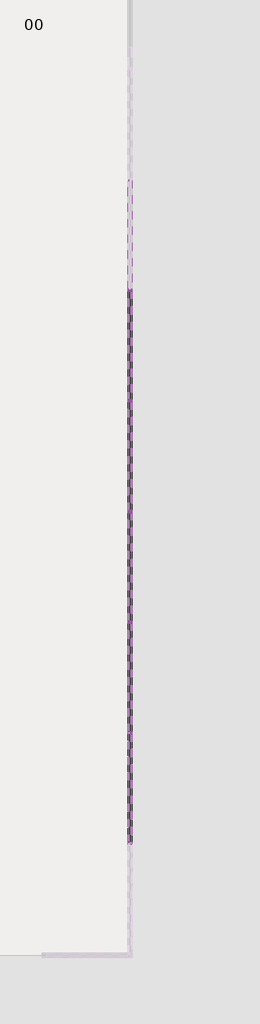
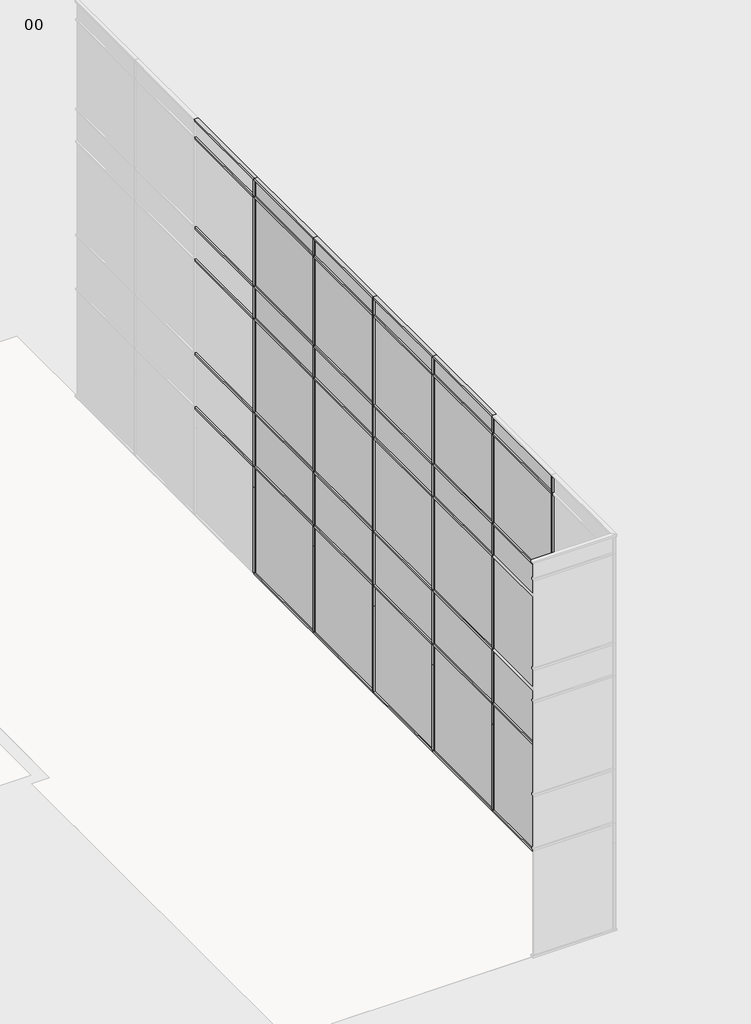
# One storey, part 5 of 12: 80 members, 30 plates.
"""IFC4 building model written with IfcOpenShell, lengths in millimetres."""

from ifc_helpers import new_model, si_unit, origin, place, context, project, spatial, transform, mapped, element, save
from components import rectangular_mullion_curtainwallmullion_rectangular_generic_8ae0e668, rectangular_mullion_curtainwallmullion_rectangular_generic_08fbcc14, rectangular_mullion_curtainwallmullion_rectangular_generic_5675a122, rectangular_mullion_curtainwallmullion_rectangular_generic_12ad56c0, rectangular_mullion_curtainwallmullion_rectangular_generic_bd817207, rectangular_mullion_curtainwallmullion_rectangular_generic_654ac675, rectangular_mullion_curtainwallmullion_rectangular_generic_c0600e94, rectangular_mullion_curtainwallmullion_rectangular_generic_c640f651, rectangular_mullion_curtainwallmullion_rectangular_generic_b2d53351, system_panel_curtainpanel_glazed_34fb785a, system_panel_curtainpanel_glazed_62d472f1, system_panel_curtainpanel_glazed_9c2ad216, system_panel_curtainpanel_solid_fc584997, system_panel_curtainpanel_solid_60141125, system_panel_curtainpanel_solid_5de49f81

model = new_model("IFC4")

# Units and contexts
model_context = context("Model", 3, world=origin())
ifc_project = project(units=[si_unit("LENGTHUNIT", "METRE", prefix="MILLI")], contexts=[model_context])

# Site, building, storey
site = spatial("IfcSite", under=ifc_project)
building = spatial("IfcBuilding", under=site)
storey = spatial("IfcBuildingStorey", under=building, Name="00", Elevation=0.0)

# Members
placement = place(None, origin())
rectangular_mullion_curtainwallmullion_rectangular_generic_shape = rectangular_mullion_curtainwallmullion_rectangular_generic_8ae0e668(model_context)
element("IfcMember", 1, ObjectType="Rectangular Mullion : CurtainWallMullion_Rectangular_Generic", at=placement, inside=storey, context=model_context, shape_type="MappedRepresentation", body=[
    mapped(rectangular_mullion_curtainwallmullion_rectangular_generic_shape, transform((454246.3206883, -392053.4026387, 10486.7), x_axis=(0.0, -1.0, 0.0), y_axis=(-1.0, 0.0, 0.0), z_axis=(0.0, 0.0, -1.0))),
])
element("IfcMember", 2, ObjectType="Rectangular Mullion : CurtainWallMullion_Rectangular_Generic", at=placement, inside=storey, context=model_context, shape_type="MappedRepresentation", body=[
    mapped(rectangular_mullion_curtainwallmullion_rectangular_generic_shape, transform((454246.3206883, -394768.0026386, 10486.7), x_axis=(0.0, -1.0, 0.0), y_axis=(-1.0, 0.0, 0.0), z_axis=(0.0, 0.0, -1.0))),
])
element("IfcMember", 3, ObjectType="Rectangular Mullion : CurtainWallMullion_Rectangular_Generic", at=placement, inside=storey, context=model_context, shape_type="MappedRepresentation", body=[
    mapped(rectangular_mullion_curtainwallmullion_rectangular_generic_shape, transform((454246.3206883, -397482.6026385, 10486.7), x_axis=(0.0, -1.0, 0.0), y_axis=(-1.0, 0.0, 0.0), z_axis=(0.0, 0.0, -1.0))),
])
element("IfcMember", 4, ObjectType="Rectangular Mullion : CurtainWallMullion_Rectangular_Generic", at=placement, inside=storey, context=model_context, shape_type="MappedRepresentation", body=[
    mapped(rectangular_mullion_curtainwallmullion_rectangular_generic_shape, transform((454246.3206883, -400197.2026385, 10486.7), x_axis=(0.0, -1.0, 0.0), y_axis=(-1.0, 0.0, 0.0), z_axis=(0.0, 0.0, -1.0))),
])
element("IfcMember", 5, ObjectType="Rectangular Mullion : CurtainWallMullion_Rectangular_Generic", at=placement, inside=storey, context=model_context, shape_type="MappedRepresentation", body=[
    mapped(rectangular_mullion_curtainwallmullion_rectangular_generic_shape, transform((454246.3206883, -402911.8026384, 10486.7), x_axis=(0.0, -1.0, 0.0), y_axis=(-1.0, 0.0, 0.0), z_axis=(0.0, 0.0, -1.0))),
])
element("IfcMember", 6, ObjectType="Rectangular Mullion : CurtainWallMullion_Rectangular_Generic", at=placement, inside=storey, context=model_context, shape_type="MappedRepresentation", body=[
    mapped(rectangular_mullion_curtainwallmullion_rectangular_generic_shape, transform((454246.3206883, -405626.4026384, 10486.7), x_axis=(0.0, -1.0, 0.0), y_axis=(-1.0, 0.0, 0.0), z_axis=(0.0, 0.0, -1.0))),
])
rectangular_mullion_curtainwallmullion_rectangular_generic_2_shape = rectangular_mullion_curtainwallmullion_rectangular_generic_08fbcc14(model_context)
element("IfcMember", 7, ObjectType="Rectangular Mullion : CurtainWallMullion_Rectangular_Generic", at=placement, inside=storey, context=model_context, shape_type="MappedRepresentation", body=[
    mapped(rectangular_mullion_curtainwallmullion_rectangular_generic_2_shape, transform((454246.3206883, -392053.4026387, 8000.0), x_axis=(0.0, -1.0, 0.0), y_axis=(-1.0, 0.0, 0.0), z_axis=(0.0, 0.0, -1.0))),
])
element("IfcMember", 8, ObjectType="Rectangular Mullion : CurtainWallMullion_Rectangular_Generic", at=placement, inside=storey, context=model_context, shape_type="MappedRepresentation", body=[
    mapped(rectangular_mullion_curtainwallmullion_rectangular_generic_2_shape, transform((454246.3206883, -394768.0026386, 8000.0), x_axis=(0.0, -1.0, 0.0), y_axis=(-1.0, 0.0, 0.0), z_axis=(0.0, 0.0, -1.0))),
])
element("IfcMember", 9, ObjectType="Rectangular Mullion : CurtainWallMullion_Rectangular_Generic", at=placement, inside=storey, context=model_context, shape_type="MappedRepresentation", body=[
    mapped(rectangular_mullion_curtainwallmullion_rectangular_generic_2_shape, transform((454246.3206883, -397482.6026385, 8000.0), x_axis=(0.0, -1.0, 0.0), y_axis=(-1.0, 0.0, 0.0), z_axis=(0.0, 0.0, -1.0))),
])
element("IfcMember", 10, ObjectType="Rectangular Mullion : CurtainWallMullion_Rectangular_Generic", at=placement, inside=storey, context=model_context, shape_type="MappedRepresentation", body=[
    mapped(rectangular_mullion_curtainwallmullion_rectangular_generic_2_shape, transform((454246.3206883, -400197.2026385, 8000.0), x_axis=(0.0, -1.0, 0.0), y_axis=(-1.0, 0.0, 0.0), z_axis=(0.0, 0.0, -1.0))),
])
element("IfcMember", 11, ObjectType="Rectangular Mullion : CurtainWallMullion_Rectangular_Generic", at=placement, inside=storey, context=model_context, shape_type="MappedRepresentation", body=[
    mapped(rectangular_mullion_curtainwallmullion_rectangular_generic_2_shape, transform((454246.3206883, -402911.8026384, 8000.0), x_axis=(0.0, -1.0, 0.0), y_axis=(-1.0, 0.0, 0.0), z_axis=(0.0, 0.0, -1.0))),
])
element("IfcMember", 12, ObjectType="Rectangular Mullion : CurtainWallMullion_Rectangular_Generic", at=placement, inside=storey, context=model_context, shape_type="MappedRepresentation", body=[
    mapped(rectangular_mullion_curtainwallmullion_rectangular_generic_2_shape, transform((454246.3206883, -405626.4026384, 8000.0), x_axis=(0.0, -1.0, 0.0), y_axis=(-1.0, 0.0, 0.0), z_axis=(0.0, 0.0, -1.0))),
])
rectangular_mullion_curtainwallmullion_rectangular_generic_3_shape = rectangular_mullion_curtainwallmullion_rectangular_generic_5675a122(model_context)
element("IfcMember", 13, ObjectType="Rectangular Mullion : CurtainWallMullion_Rectangular_Generic", at=placement, inside=storey, context=model_context, shape_type="MappedRepresentation", body=[
    mapped(rectangular_mullion_curtainwallmullion_rectangular_generic_3_shape, transform((454246.3206883, -392053.4026387, 50.0), x_axis=(0.0, -1.0, 0.0), y_axis=(-1.0, 0.0, 0.0), z_axis=(0.0, 0.0, -1.0))),
])
element("IfcMember", 14, ObjectType="Rectangular Mullion : CurtainWallMullion_Rectangular_Generic", at=placement, inside=storey, context=model_context, shape_type="MappedRepresentation", body=[
    mapped(rectangular_mullion_curtainwallmullion_rectangular_generic_3_shape, transform((454246.3206883, -394768.0026386, 50.0), x_axis=(0.0, -1.0, 0.0), y_axis=(-1.0, 0.0, 0.0), z_axis=(0.0, 0.0, -1.0))),
])
element("IfcMember", 15, ObjectType="Rectangular Mullion : CurtainWallMullion_Rectangular_Generic", at=placement, inside=storey, context=model_context, shape_type="MappedRepresentation", body=[
    mapped(rectangular_mullion_curtainwallmullion_rectangular_generic_3_shape, transform((454246.3206883, -397482.6026385, 50.0), x_axis=(0.0, -1.0, 0.0), y_axis=(-1.0, 0.0, 0.0), z_axis=(0.0, 0.0, -1.0))),
])
element("IfcMember", 16, ObjectType="Rectangular Mullion : CurtainWallMullion_Rectangular_Generic", at=placement, inside=storey, context=model_context, shape_type="MappedRepresentation", body=[
    mapped(rectangular_mullion_curtainwallmullion_rectangular_generic_3_shape, transform((454246.3206883, -400197.2026385, 50.0), x_axis=(0.0, -1.0, 0.0), y_axis=(-1.0, 0.0, 0.0), z_axis=(0.0, 0.0, -1.0))),
])
element("IfcMember", 17, ObjectType="Rectangular Mullion : CurtainWallMullion_Rectangular_Generic", at=placement, inside=storey, context=model_context, shape_type="MappedRepresentation", body=[
    mapped(rectangular_mullion_curtainwallmullion_rectangular_generic_3_shape, transform((454246.3206883, -402911.8026384, 50.0), x_axis=(0.0, -1.0, 0.0), y_axis=(-1.0, 0.0, 0.0), z_axis=(0.0, 0.0, -1.0))),
])
element("IfcMember", 18, ObjectType="Rectangular Mullion : CurtainWallMullion_Rectangular_Generic", at=placement, inside=storey, context=model_context, shape_type="MappedRepresentation", body=[
    mapped(rectangular_mullion_curtainwallmullion_rectangular_generic_3_shape, transform((454246.3206883, -405626.4026384, 50.0), x_axis=(0.0, -1.0, 0.0), y_axis=(-1.0, 0.0, 0.0), z_axis=(0.0, 0.0, -1.0))),
])
rectangular_mullion_curtainwallmullion_rectangular_generic_4_shape = rectangular_mullion_curtainwallmullion_rectangular_generic_12ad56c0(model_context)
element("IfcMember", 19, ObjectType="Rectangular Mullion : CurtainWallMullion_Rectangular_Generic", at=placement, inside=storey, context=model_context, shape_type="MappedRepresentation", body=[
    mapped(rectangular_mullion_curtainwallmullion_rectangular_generic_4_shape, transform((454246.3206883, -392053.4026387, 11000.0), x_axis=(0.0, 0.0, 1.0), y_axis=(-1.0, 0.0, 0.0), z_axis=(0.0, -1.0, 0.0))),
])
element("IfcMember", 20, ObjectType="Rectangular Mullion : CurtainWallMullion_Rectangular_Generic", at=placement, inside=storey, context=model_context, shape_type="MappedRepresentation", body=[
    mapped(rectangular_mullion_curtainwallmullion_rectangular_generic_4_shape, transform((454246.3206883, -394768.0026386, 11000.0), x_axis=(0.0, 0.0, 1.0), y_axis=(-1.0, 0.0, 0.0), z_axis=(0.0, -1.0, 0.0))),
])
element("IfcMember", 21, ObjectType="Rectangular Mullion : CurtainWallMullion_Rectangular_Generic", at=placement, inside=storey, context=model_context, shape_type="MappedRepresentation", body=[
    mapped(rectangular_mullion_curtainwallmullion_rectangular_generic_4_shape, transform((454246.3206883, -397482.6026385, 11000.0), x_axis=(0.0, 0.0, 1.0), y_axis=(-1.0, 0.0, 0.0), z_axis=(0.0, -1.0, 0.0))),
])
element("IfcMember", 22, ObjectType="Rectangular Mullion : CurtainWallMullion_Rectangular_Generic", at=placement, inside=storey, context=model_context, shape_type="MappedRepresentation", body=[
    mapped(rectangular_mullion_curtainwallmullion_rectangular_generic_4_shape, transform((454246.3206883, -400197.2026385, 11000.0), x_axis=(0.0, 0.0, 1.0), y_axis=(-1.0, 0.0, 0.0), z_axis=(0.0, -1.0, 0.0))),
])
element("IfcMember", 23, ObjectType="Rectangular Mullion : CurtainWallMullion_Rectangular_Generic", at=placement, inside=storey, context=model_context, shape_type="MappedRepresentation", body=[
    mapped(rectangular_mullion_curtainwallmullion_rectangular_generic_4_shape, transform((454246.3206883, -402911.8026384, 11000.0), x_axis=(0.0, 0.0, 1.0), y_axis=(-1.0, 0.0, 0.0), z_axis=(0.0, -1.0, 0.0))),
])
element("IfcMember", 24, ObjectType="Rectangular Mullion : CurtainWallMullion_Rectangular_Generic", at=placement, inside=storey, context=model_context, shape_type="MappedRepresentation", body=[
    mapped(rectangular_mullion_curtainwallmullion_rectangular_generic_4_shape, transform((454246.3206883, -392053.4026387, 0.0), x_axis=(0.0, 0.0, -1.0), y_axis=(-1.0, 0.0, 0.0), z_axis=(0.0, 1.0, 0.0))),
])
element("IfcMember", 25, ObjectType="Rectangular Mullion : CurtainWallMullion_Rectangular_Generic", at=placement, inside=storey, context=model_context, shape_type="MappedRepresentation", body=[
    mapped(rectangular_mullion_curtainwallmullion_rectangular_generic_4_shape, transform((454246.3206883, -394768.0026386, 0.0), x_axis=(0.0, 0.0, -1.0), y_axis=(-1.0, 0.0, 0.0), z_axis=(0.0, 1.0, 0.0))),
])
element("IfcMember", 26, ObjectType="Rectangular Mullion : CurtainWallMullion_Rectangular_Generic", at=placement, inside=storey, context=model_context, shape_type="MappedRepresentation", body=[
    mapped(rectangular_mullion_curtainwallmullion_rectangular_generic_4_shape, transform((454246.3206883, -397482.6026385, 0.0), x_axis=(0.0, 0.0, -1.0), y_axis=(-1.0, 0.0, 0.0), z_axis=(0.0, 1.0, 0.0))),
])
element("IfcMember", 27, ObjectType="Rectangular Mullion : CurtainWallMullion_Rectangular_Generic", at=placement, inside=storey, context=model_context, shape_type="MappedRepresentation", body=[
    mapped(rectangular_mullion_curtainwallmullion_rectangular_generic_4_shape, transform((454246.3206883, -400197.2026385, 0.0), x_axis=(0.0, 0.0, -1.0), y_axis=(-1.0, 0.0, 0.0), z_axis=(0.0, 1.0, 0.0))),
])
element("IfcMember", 28, ObjectType="Rectangular Mullion : CurtainWallMullion_Rectangular_Generic", at=placement, inside=storey, context=model_context, shape_type="MappedRepresentation", body=[
    mapped(rectangular_mullion_curtainwallmullion_rectangular_generic_4_shape, transform((454246.3206883, -402911.8026384, 0.0), x_axis=(0.0, 0.0, -1.0), y_axis=(-1.0, 0.0, 0.0), z_axis=(0.0, 1.0, 0.0))),
])
rectangular_mullion_curtainwallmullion_rectangular_generic_5_shape = rectangular_mullion_curtainwallmullion_rectangular_generic_bd817207(model_context)
element("IfcMember", 29, ObjectType="Rectangular Mullion : CurtainWallMullion_Rectangular_Generic", at=placement, inside=storey, context=model_context, shape_type="MappedRepresentation", body=[
    mapped(rectangular_mullion_curtainwallmullion_rectangular_generic_5_shape, transform((454246.3206883, -392028.4026387, 4500.0), x_axis=(0.0, 0.0, 1.0), y_axis=(-1.0, 0.0, 0.0), z_axis=(0.0, -1.0, 0.0))),
])
element("IfcMember", 30, ObjectType="Rectangular Mullion : CurtainWallMullion_Rectangular_Generic", at=placement, inside=storey, context=model_context, shape_type="MappedRepresentation", body=[
    mapped(rectangular_mullion_curtainwallmullion_rectangular_generic_5_shape, transform((454246.3206883, -394743.0026386, 4500.0), x_axis=(0.0, 0.0, 1.0), y_axis=(-1.0, 0.0, 0.0), z_axis=(0.0, -1.0, 0.0))),
])
element("IfcMember", 31, ObjectType="Rectangular Mullion : CurtainWallMullion_Rectangular_Generic", at=placement, inside=storey, context=model_context, shape_type="MappedRepresentation", body=[
    mapped(rectangular_mullion_curtainwallmullion_rectangular_generic_5_shape, transform((454246.3206883, -392028.4026387, 7100.0), x_axis=(0.0, 0.0, 1.0), y_axis=(-1.0, 0.0, 0.0), z_axis=(0.0, -1.0, 0.0))),
])
element("IfcMember", 32, ObjectType="Rectangular Mullion : CurtainWallMullion_Rectangular_Generic", at=placement, inside=storey, context=model_context, shape_type="MappedRepresentation", body=[
    mapped(rectangular_mullion_curtainwallmullion_rectangular_generic_5_shape, transform((454246.3206883, -394743.0026386, 7100.0), x_axis=(0.0, 0.0, 1.0), y_axis=(-1.0, 0.0, 0.0), z_axis=(0.0, -1.0, 0.0))),
])
element("IfcMember", 33, ObjectType="Rectangular Mullion : CurtainWallMullion_Rectangular_Generic", at=placement, inside=storey, context=model_context, shape_type="MappedRepresentation", body=[
    mapped(rectangular_mullion_curtainwallmullion_rectangular_generic_5_shape, transform((454246.3206883, -392028.4026387, 10486.7), x_axis=(0.0, 0.0, 1.0), y_axis=(-1.0, 0.0, 0.0), z_axis=(0.0, -1.0, 0.0))),
])
element("IfcMember", 34, ObjectType="Rectangular Mullion : CurtainWallMullion_Rectangular_Generic", at=placement, inside=storey, context=model_context, shape_type="MappedRepresentation", body=[
    mapped(rectangular_mullion_curtainwallmullion_rectangular_generic_5_shape, transform((454246.3206883, -394743.0026386, 10486.7), x_axis=(0.0, 0.0, 1.0), y_axis=(-1.0, 0.0, 0.0), z_axis=(0.0, -1.0, 0.0))),
])
element("IfcMember", 35, ObjectType="Rectangular Mullion : CurtainWallMullion_Rectangular_Generic", at=placement, inside=storey, context=model_context, shape_type="MappedRepresentation", body=[
    mapped(rectangular_mullion_curtainwallmullion_rectangular_generic_5_shape, transform((454246.3206883, -397457.6026385, 4500.0), x_axis=(0.0, 0.0, 1.0), y_axis=(-1.0, 0.0, 0.0), z_axis=(0.0, -1.0, 0.0))),
])
element("IfcMember", 36, ObjectType="Rectangular Mullion : CurtainWallMullion_Rectangular_Generic", at=placement, inside=storey, context=model_context, shape_type="MappedRepresentation", body=[
    mapped(rectangular_mullion_curtainwallmullion_rectangular_generic_5_shape, transform((454246.3206883, -400172.2026385, 4500.0), x_axis=(0.0, 0.0, 1.0), y_axis=(-1.0, 0.0, 0.0), z_axis=(0.0, -1.0, 0.0))),
])
element("IfcMember", 37, ObjectType="Rectangular Mullion : CurtainWallMullion_Rectangular_Generic", at=placement, inside=storey, context=model_context, shape_type="MappedRepresentation", body=[
    mapped(rectangular_mullion_curtainwallmullion_rectangular_generic_5_shape, transform((454246.3206883, -402886.8026384, 4500.0), x_axis=(0.0, 0.0, 1.0), y_axis=(-1.0, 0.0, 0.0), z_axis=(0.0, -1.0, 0.0))),
])
element("IfcMember", 38, ObjectType="Rectangular Mullion : CurtainWallMullion_Rectangular_Generic", at=placement, inside=storey, context=model_context, shape_type="MappedRepresentation", body=[
    mapped(rectangular_mullion_curtainwallmullion_rectangular_generic_5_shape, transform((454246.3206883, -397457.6026385, 7100.0), x_axis=(0.0, 0.0, 1.0), y_axis=(-1.0, 0.0, 0.0), z_axis=(0.0, -1.0, 0.0))),
])
element("IfcMember", 39, ObjectType="Rectangular Mullion : CurtainWallMullion_Rectangular_Generic", at=placement, inside=storey, context=model_context, shape_type="MappedRepresentation", body=[
    mapped(rectangular_mullion_curtainwallmullion_rectangular_generic_5_shape, transform((454246.3206883, -400172.2026385, 7100.0), x_axis=(0.0, 0.0, 1.0), y_axis=(-1.0, 0.0, 0.0), z_axis=(0.0, -1.0, 0.0))),
])
element("IfcMember", 40, ObjectType="Rectangular Mullion : CurtainWallMullion_Rectangular_Generic", at=placement, inside=storey, context=model_context, shape_type="MappedRepresentation", body=[
    mapped(rectangular_mullion_curtainwallmullion_rectangular_generic_5_shape, transform((454246.3206883, -402886.8026384, 7100.0), x_axis=(0.0, 0.0, 1.0), y_axis=(-1.0, 0.0, 0.0), z_axis=(0.0, -1.0, 0.0))),
])
element("IfcMember", 41, ObjectType="Rectangular Mullion : CurtainWallMullion_Rectangular_Generic", at=placement, inside=storey, context=model_context, shape_type="MappedRepresentation", body=[
    mapped(rectangular_mullion_curtainwallmullion_rectangular_generic_5_shape, transform((454246.3206883, -397457.6026385, 10486.7), x_axis=(0.0, 0.0, 1.0), y_axis=(-1.0, 0.0, 0.0), z_axis=(0.0, -1.0, 0.0))),
])
element("IfcMember", 42, ObjectType="Rectangular Mullion : CurtainWallMullion_Rectangular_Generic", at=placement, inside=storey, context=model_context, shape_type="MappedRepresentation", body=[
    mapped(rectangular_mullion_curtainwallmullion_rectangular_generic_5_shape, transform((454246.3206883, -400172.2026385, 10486.7), x_axis=(0.0, 0.0, 1.0), y_axis=(-1.0, 0.0, 0.0), z_axis=(0.0, -1.0, 0.0))),
])
element("IfcMember", 43, ObjectType="Rectangular Mullion : CurtainWallMullion_Rectangular_Generic", at=placement, inside=storey, context=model_context, shape_type="MappedRepresentation", body=[
    mapped(rectangular_mullion_curtainwallmullion_rectangular_generic_5_shape, transform((454246.3206883, -402886.8026384, 10486.7), x_axis=(0.0, 0.0, 1.0), y_axis=(-1.0, 0.0, 0.0), z_axis=(0.0, -1.0, 0.0))),
])
element("IfcMember", 44, ObjectType="Rectangular Mullion : CurtainWallMullion_Rectangular_Generic", at=placement, inside=storey, context=model_context, shape_type="MappedRepresentation", body=[
    mapped(rectangular_mullion_curtainwallmullion_rectangular_generic_5_shape, transform((454246.3206883, -405601.4026384, 10486.7), x_axis=(0.0, 0.0, 1.0), y_axis=(-1.0, 0.0, 0.0), z_axis=(0.0, -1.0, 0.0))),
])
element("IfcMember", 45, ObjectType="Rectangular Mullion : CurtainWallMullion_Rectangular_Generic", at=placement, inside=storey, context=model_context, shape_type="MappedRepresentation", body=[
    mapped(rectangular_mullion_curtainwallmullion_rectangular_generic_5_shape, transform((454246.3206883, -392028.4026387, 8000.0), x_axis=(0.0, 0.0, 1.0), y_axis=(-1.0, 0.0, 0.0), z_axis=(0.0, -1.0, 0.0))),
])
element("IfcMember", 46, ObjectType="Rectangular Mullion : CurtainWallMullion_Rectangular_Generic", at=placement, inside=storey, context=model_context, shape_type="MappedRepresentation", body=[
    mapped(rectangular_mullion_curtainwallmullion_rectangular_generic_5_shape, transform((454246.3206883, -394743.0026386, 8000.0), x_axis=(0.0, 0.0, 1.0), y_axis=(-1.0, 0.0, 0.0), z_axis=(0.0, -1.0, 0.0))),
])
element("IfcMember", 47, ObjectType="Rectangular Mullion : CurtainWallMullion_Rectangular_Generic", at=placement, inside=storey, context=model_context, shape_type="MappedRepresentation", body=[
    mapped(rectangular_mullion_curtainwallmullion_rectangular_generic_5_shape, transform((454246.3206883, -397457.6026385, 8000.0), x_axis=(0.0, 0.0, 1.0), y_axis=(-1.0, 0.0, 0.0), z_axis=(0.0, -1.0, 0.0))),
])
element("IfcMember", 48, ObjectType="Rectangular Mullion : CurtainWallMullion_Rectangular_Generic", at=placement, inside=storey, context=model_context, shape_type="MappedRepresentation", body=[
    mapped(rectangular_mullion_curtainwallmullion_rectangular_generic_5_shape, transform((454246.3206883, -400172.2026385, 8000.0), x_axis=(0.0, 0.0, 1.0), y_axis=(-1.0, 0.0, 0.0), z_axis=(0.0, -1.0, 0.0))),
])
element("IfcMember", 49, ObjectType="Rectangular Mullion : CurtainWallMullion_Rectangular_Generic", at=placement, inside=storey, context=model_context, shape_type="MappedRepresentation", body=[
    mapped(rectangular_mullion_curtainwallmullion_rectangular_generic_5_shape, transform((454246.3206883, -402886.8026384, 8000.0), x_axis=(0.0, 0.0, 1.0), y_axis=(-1.0, 0.0, 0.0), z_axis=(0.0, -1.0, 0.0))),
])
element("IfcMember", 50, ObjectType="Rectangular Mullion : CurtainWallMullion_Rectangular_Generic", at=placement, inside=storey, context=model_context, shape_type="MappedRepresentation", body=[
    mapped(rectangular_mullion_curtainwallmullion_rectangular_generic_5_shape, transform((454246.3206883, -405601.4026384, 8000.0), x_axis=(0.0, 0.0, 1.0), y_axis=(-1.0, 0.0, 0.0), z_axis=(0.0, -1.0, 0.0))),
])
element("IfcMember", 51, ObjectType="Rectangular Mullion : CurtainWallMullion_Rectangular_Generic", at=placement, inside=storey, context=model_context, shape_type="MappedRepresentation", body=[
    mapped(rectangular_mullion_curtainwallmullion_rectangular_generic_5_shape, transform((454246.3206883, -392028.4026387, 3000.0), x_axis=(0.0, 0.0, 1.0), y_axis=(-1.0, 0.0, 0.0), z_axis=(0.0, -1.0, 0.0))),
])
element("IfcMember", 52, ObjectType="Rectangular Mullion : CurtainWallMullion_Rectangular_Generic", at=placement, inside=storey, context=model_context, shape_type="MappedRepresentation", body=[
    mapped(rectangular_mullion_curtainwallmullion_rectangular_generic_5_shape, transform((454246.3206883, -394743.0026386, 3000.0), x_axis=(0.0, 0.0, 1.0), y_axis=(-1.0, 0.0, 0.0), z_axis=(0.0, -1.0, 0.0))),
])
element("IfcMember", 53, ObjectType="Rectangular Mullion : CurtainWallMullion_Rectangular_Generic", at=placement, inside=storey, context=model_context, shape_type="MappedRepresentation", body=[
    mapped(rectangular_mullion_curtainwallmullion_rectangular_generic_5_shape, transform((454246.3206883, -397457.6026385, 3000.0), x_axis=(0.0, 0.0, 1.0), y_axis=(-1.0, 0.0, 0.0), z_axis=(0.0, -1.0, 0.0))),
])
element("IfcMember", 54, ObjectType="Rectangular Mullion : CurtainWallMullion_Rectangular_Generic", at=placement, inside=storey, context=model_context, shape_type="MappedRepresentation", body=[
    mapped(rectangular_mullion_curtainwallmullion_rectangular_generic_5_shape, transform((454246.3206883, -400172.2026385, 3000.0), x_axis=(0.0, 0.0, 1.0), y_axis=(-1.0, 0.0, 0.0), z_axis=(0.0, -1.0, 0.0))),
])
element("IfcMember", 55, ObjectType="Rectangular Mullion : CurtainWallMullion_Rectangular_Generic", at=placement, inside=storey, context=model_context, shape_type="MappedRepresentation", body=[
    mapped(rectangular_mullion_curtainwallmullion_rectangular_generic_5_shape, transform((454246.3206883, -402886.8026384, 3000.0), x_axis=(0.0, 0.0, 1.0), y_axis=(-1.0, 0.0, 0.0), z_axis=(0.0, -1.0, 0.0))),
])
element("IfcMember", 56, ObjectType="Rectangular Mullion : CurtainWallMullion_Rectangular_Generic", at=placement, inside=storey, context=model_context, shape_type="MappedRepresentation", body=[
    mapped(rectangular_mullion_curtainwallmullion_rectangular_generic_5_shape, transform((454246.3206883, -405601.4026384, 3000.0), x_axis=(0.0, 0.0, 1.0), y_axis=(-1.0, 0.0, 0.0), z_axis=(0.0, -1.0, 0.0))),
])
rectangular_mullion_curtainwallmullion_rectangular_generic_6_shape = rectangular_mullion_curtainwallmullion_rectangular_generic_654ac675(model_context)
element("IfcMember", 57, ObjectType="Rectangular Mullion : CurtainWallMullion_Rectangular_Generic", at=placement, inside=storey, context=model_context, shape_type="MappedRepresentation", body=[
    mapped(rectangular_mullion_curtainwallmullion_rectangular_generic_6_shape, transform((454246.3206883, -392053.4026387, 4500.0), x_axis=(0.0, -1.0, 0.0), y_axis=(-1.0, 0.0, 0.0), z_axis=(0.0, 0.0, -1.0))),
])
element("IfcMember", 58, ObjectType="Rectangular Mullion : CurtainWallMullion_Rectangular_Generic", at=placement, inside=storey, context=model_context, shape_type="MappedRepresentation", body=[
    mapped(rectangular_mullion_curtainwallmullion_rectangular_generic_6_shape, transform((454246.3206883, -394768.0026386, 4500.0), x_axis=(0.0, -1.0, 0.0), y_axis=(-1.0, 0.0, 0.0), z_axis=(0.0, 0.0, -1.0))),
])
element("IfcMember", 59, ObjectType="Rectangular Mullion : CurtainWallMullion_Rectangular_Generic", at=placement, inside=storey, context=model_context, shape_type="MappedRepresentation", body=[
    mapped(rectangular_mullion_curtainwallmullion_rectangular_generic_6_shape, transform((454246.3206883, -397482.6026385, 4500.0), x_axis=(0.0, -1.0, 0.0), y_axis=(-1.0, 0.0, 0.0), z_axis=(0.0, 0.0, -1.0))),
])
element("IfcMember", 60, ObjectType="Rectangular Mullion : CurtainWallMullion_Rectangular_Generic", at=placement, inside=storey, context=model_context, shape_type="MappedRepresentation", body=[
    mapped(rectangular_mullion_curtainwallmullion_rectangular_generic_6_shape, transform((454246.3206883, -400197.2026385, 4500.0), x_axis=(0.0, -1.0, 0.0), y_axis=(-1.0, 0.0, 0.0), z_axis=(0.0, 0.0, -1.0))),
])
element("IfcMember", 61, ObjectType="Rectangular Mullion : CurtainWallMullion_Rectangular_Generic", at=placement, inside=storey, context=model_context, shape_type="MappedRepresentation", body=[
    mapped(rectangular_mullion_curtainwallmullion_rectangular_generic_6_shape, transform((454246.3206883, -402911.8026384, 4500.0), x_axis=(0.0, -1.0, 0.0), y_axis=(-1.0, 0.0, 0.0), z_axis=(0.0, 0.0, -1.0))),
])
element("IfcMember", 62, ObjectType="Rectangular Mullion : CurtainWallMullion_Rectangular_Generic", at=placement, inside=storey, context=model_context, shape_type="MappedRepresentation", body=[
    mapped(rectangular_mullion_curtainwallmullion_rectangular_generic_6_shape, transform((454246.3206883, -405626.4026384, 4500.0), x_axis=(0.0, -1.0, 0.0), y_axis=(-1.0, 0.0, 0.0), z_axis=(0.0, 0.0, -1.0))),
])
rectangular_mullion_curtainwallmullion_rectangular_generic_7_shape = rectangular_mullion_curtainwallmullion_rectangular_generic_c0600e94(model_context)
element("IfcMember", 63, ObjectType="Rectangular Mullion : CurtainWallMullion_Rectangular_Generic", at=placement, inside=storey, context=model_context, shape_type="MappedRepresentation", body=[
    mapped(rectangular_mullion_curtainwallmullion_rectangular_generic_7_shape, transform((454246.3206883, -392053.4026387, 3000.0), x_axis=(0.0, -1.0, 0.0), y_axis=(-1.0, 0.0, 0.0), z_axis=(0.0, 0.0, -1.0))),
])
element("IfcMember", 64, ObjectType="Rectangular Mullion : CurtainWallMullion_Rectangular_Generic", at=placement, inside=storey, context=model_context, shape_type="MappedRepresentation", body=[
    mapped(rectangular_mullion_curtainwallmullion_rectangular_generic_7_shape, transform((454246.3206883, -394768.0026386, 3000.0), x_axis=(0.0, -1.0, 0.0), y_axis=(-1.0, 0.0, 0.0), z_axis=(0.0, 0.0, -1.0))),
])
element("IfcMember", 65, ObjectType="Rectangular Mullion : CurtainWallMullion_Rectangular_Generic", at=placement, inside=storey, context=model_context, shape_type="MappedRepresentation", body=[
    mapped(rectangular_mullion_curtainwallmullion_rectangular_generic_7_shape, transform((454246.3206883, -397482.6026385, 3000.0), x_axis=(0.0, -1.0, 0.0), y_axis=(-1.0, 0.0, 0.0), z_axis=(0.0, 0.0, -1.0))),
])
element("IfcMember", 66, ObjectType="Rectangular Mullion : CurtainWallMullion_Rectangular_Generic", at=placement, inside=storey, context=model_context, shape_type="MappedRepresentation", body=[
    mapped(rectangular_mullion_curtainwallmullion_rectangular_generic_7_shape, transform((454246.3206883, -400197.2026385, 3000.0), x_axis=(0.0, -1.0, 0.0), y_axis=(-1.0, 0.0, 0.0), z_axis=(0.0, 0.0, -1.0))),
])
element("IfcMember", 67, ObjectType="Rectangular Mullion : CurtainWallMullion_Rectangular_Generic", at=placement, inside=storey, context=model_context, shape_type="MappedRepresentation", body=[
    mapped(rectangular_mullion_curtainwallmullion_rectangular_generic_7_shape, transform((454246.3206883, -402911.8026384, 3000.0), x_axis=(0.0, -1.0, 0.0), y_axis=(-1.0, 0.0, 0.0), z_axis=(0.0, 0.0, -1.0))),
])
element("IfcMember", 68, ObjectType="Rectangular Mullion : CurtainWallMullion_Rectangular_Generic", at=placement, inside=storey, context=model_context, shape_type="MappedRepresentation", body=[
    mapped(rectangular_mullion_curtainwallmullion_rectangular_generic_7_shape, transform((454246.3206883, -405626.4026384, 3000.0), x_axis=(0.0, -1.0, 0.0), y_axis=(-1.0, 0.0, 0.0), z_axis=(0.0, 0.0, -1.0))),
])
rectangular_mullion_curtainwallmullion_rectangular_generic_8_shape = rectangular_mullion_curtainwallmullion_rectangular_generic_c640f651(model_context)
element("IfcMember", 69, ObjectType="Rectangular Mullion : CurtainWallMullion_Rectangular_Generic", at=placement, inside=storey, context=model_context, shape_type="MappedRepresentation", body=[
    mapped(rectangular_mullion_curtainwallmullion_rectangular_generic_8_shape, transform((454246.3206883, -392053.4026387, 7100.0), x_axis=(0.0, -1.0, 0.0), y_axis=(-1.0, 0.0, 0.0), z_axis=(0.0, 0.0, -1.0))),
])
element("IfcMember", 70, ObjectType="Rectangular Mullion : CurtainWallMullion_Rectangular_Generic", at=placement, inside=storey, context=model_context, shape_type="MappedRepresentation", body=[
    mapped(rectangular_mullion_curtainwallmullion_rectangular_generic_8_shape, transform((454246.3206883, -394768.0026386, 7100.0), x_axis=(0.0, -1.0, 0.0), y_axis=(-1.0, 0.0, 0.0), z_axis=(0.0, 0.0, -1.0))),
])
element("IfcMember", 71, ObjectType="Rectangular Mullion : CurtainWallMullion_Rectangular_Generic", at=placement, inside=storey, context=model_context, shape_type="MappedRepresentation", body=[
    mapped(rectangular_mullion_curtainwallmullion_rectangular_generic_8_shape, transform((454246.3206883, -397482.6026385, 7100.0), x_axis=(0.0, -1.0, 0.0), y_axis=(-1.0, 0.0, 0.0), z_axis=(0.0, 0.0, -1.0))),
])
element("IfcMember", 72, ObjectType="Rectangular Mullion : CurtainWallMullion_Rectangular_Generic", at=placement, inside=storey, context=model_context, shape_type="MappedRepresentation", body=[
    mapped(rectangular_mullion_curtainwallmullion_rectangular_generic_8_shape, transform((454246.3206883, -400197.2026385, 7100.0), x_axis=(0.0, -1.0, 0.0), y_axis=(-1.0, 0.0, 0.0), z_axis=(0.0, 0.0, -1.0))),
])
element("IfcMember", 73, ObjectType="Rectangular Mullion : CurtainWallMullion_Rectangular_Generic", at=placement, inside=storey, context=model_context, shape_type="MappedRepresentation", body=[
    mapped(rectangular_mullion_curtainwallmullion_rectangular_generic_8_shape, transform((454246.3206883, -402911.8026384, 7100.0), x_axis=(0.0, -1.0, 0.0), y_axis=(-1.0, 0.0, 0.0), z_axis=(0.0, 0.0, -1.0))),
])
element("IfcMember", 74, ObjectType="Rectangular Mullion : CurtainWallMullion_Rectangular_Generic", at=placement, inside=storey, context=model_context, shape_type="MappedRepresentation", body=[
    mapped(rectangular_mullion_curtainwallmullion_rectangular_generic_8_shape, transform((454246.3206883, -405626.4026384, 7100.0), x_axis=(0.0, -1.0, 0.0), y_axis=(-1.0, 0.0, 0.0), z_axis=(0.0, 0.0, -1.0))),
])
rectangular_mullion_curtainwallmullion_rectangular_generic_9_shape = rectangular_mullion_curtainwallmullion_rectangular_generic_b2d53351(model_context)
element("IfcMember", 75, ObjectType="Rectangular Mullion : CurtainWallMullion_Rectangular_Generic", at=placement, inside=storey, context=model_context, shape_type="MappedRepresentation", body=[
    mapped(rectangular_mullion_curtainwallmullion_rectangular_generic_9_shape, transform((454246.3206883, -392053.4026387, 2425.0), x_axis=(0.0, -1.0, 0.0), y_axis=(-1.0, 0.0, 0.0), z_axis=(0.0, 0.0, -1.0))),
])
element("IfcMember", 76, ObjectType="Rectangular Mullion : CurtainWallMullion_Rectangular_Generic", at=placement, inside=storey, context=model_context, shape_type="MappedRepresentation", body=[
    mapped(rectangular_mullion_curtainwallmullion_rectangular_generic_9_shape, transform((454246.3206883, -394768.0026386, 2425.0), x_axis=(0.0, -1.0, 0.0), y_axis=(-1.0, 0.0, 0.0), z_axis=(0.0, 0.0, -1.0))),
])
element("IfcMember", 77, ObjectType="Rectangular Mullion : CurtainWallMullion_Rectangular_Generic", at=placement, inside=storey, context=model_context, shape_type="MappedRepresentation", body=[
    mapped(rectangular_mullion_curtainwallmullion_rectangular_generic_9_shape, transform((454246.3206883, -397482.6026385, 2425.0), x_axis=(0.0, -1.0, 0.0), y_axis=(-1.0, 0.0, 0.0), z_axis=(0.0, 0.0, -1.0))),
])
element("IfcMember", 78, ObjectType="Rectangular Mullion : CurtainWallMullion_Rectangular_Generic", at=placement, inside=storey, context=model_context, shape_type="MappedRepresentation", body=[
    mapped(rectangular_mullion_curtainwallmullion_rectangular_generic_9_shape, transform((454246.3206883, -400197.2026385, 2425.0), x_axis=(0.0, -1.0, 0.0), y_axis=(-1.0, 0.0, 0.0), z_axis=(0.0, 0.0, -1.0))),
])
element("IfcMember", 79, ObjectType="Rectangular Mullion : CurtainWallMullion_Rectangular_Generic", at=placement, inside=storey, context=model_context, shape_type="MappedRepresentation", body=[
    mapped(rectangular_mullion_curtainwallmullion_rectangular_generic_9_shape, transform((454246.3206883, -402911.8026384, 2425.0), x_axis=(0.0, -1.0, 0.0), y_axis=(-1.0, 0.0, 0.0), z_axis=(0.0, 0.0, -1.0))),
])
element("IfcMember", 80, ObjectType="Rectangular Mullion : CurtainWallMullion_Rectangular_Generic", at=placement, inside=storey, context=model_context, shape_type="MappedRepresentation", body=[
    mapped(rectangular_mullion_curtainwallmullion_rectangular_generic_9_shape, transform((454246.3206883, -405626.4026384, 2425.0), x_axis=(0.0, -1.0, 0.0), y_axis=(-1.0, 0.0, 0.0), z_axis=(0.0, 0.0, -1.0))),
])

# Plates
system_panel_curtainpanel_glazed_shape = system_panel_curtainpanel_glazed_34fb785a(model_context)
element("IfcPlate", 81, ObjectType="System Panel : CurtainPanel_Glazed", at=placement, inside=storey, context=model_context, shape_type="MappedRepresentation", body=[
    mapped(system_panel_curtainpanel_glazed_shape, transform((454246.3206883, -393410.7026386, 8025.0), x_axis=(0.0, -1.0, 0.0), y_axis=(1.0, 0.0, 0.0), z_axis=(0.0, 0.0, 1.0))),
])
element("IfcPlate", 82, ObjectType="System Panel : CurtainPanel_Glazed", at=placement, inside=storey, context=model_context, shape_type="MappedRepresentation", body=[
    mapped(system_panel_curtainpanel_glazed_shape, transform((454246.3206883, -396125.3026386, 8025.0), x_axis=(0.0, -1.0, 0.0), y_axis=(1.0, 0.0, 0.0), z_axis=(0.0, 0.0, 1.0))),
])
element("IfcPlate", 83, ObjectType="System Panel : CurtainPanel_Glazed", at=placement, inside=storey, context=model_context, shape_type="MappedRepresentation", body=[
    mapped(system_panel_curtainpanel_glazed_shape, transform((454246.3206883, -398839.9026385, 8025.0), x_axis=(0.0, -1.0, 0.0), y_axis=(1.0, 0.0, 0.0), z_axis=(0.0, 0.0, 1.0))),
])
element("IfcPlate", 84, ObjectType="System Panel : CurtainPanel_Glazed", at=placement, inside=storey, context=model_context, shape_type="MappedRepresentation", body=[
    mapped(system_panel_curtainpanel_glazed_shape, transform((454246.3206883, -401554.5026385, 8025.0), x_axis=(0.0, -1.0, 0.0), y_axis=(1.0, 0.0, 0.0), z_axis=(0.0, 0.0, 1.0))),
])
element("IfcPlate", 85, ObjectType="System Panel : CurtainPanel_Glazed", at=placement, inside=storey, context=model_context, shape_type="MappedRepresentation", body=[
    mapped(system_panel_curtainpanel_glazed_shape, transform((454246.3206883, -404269.1026384, 8025.0), x_axis=(0.0, -1.0, 0.0), y_axis=(1.0, 0.0, 0.0), z_axis=(0.0, 0.0, 1.0))),
])
system_panel_curtainpanel_glazed_2_shape = system_panel_curtainpanel_glazed_62d472f1(model_context)
element("IfcPlate", 86, ObjectType="System Panel : CurtainPanel_Glazed", at=placement, inside=storey, context=model_context, shape_type="MappedRepresentation", body=[
    mapped(system_panel_curtainpanel_glazed_2_shape, transform((454246.3206883, -393410.7026386, 50.0), x_axis=(0.0, -1.0, 0.0), y_axis=(1.0, 0.0, 0.0), z_axis=(0.0, 0.0, 1.0))),
])
element("IfcPlate", 87, ObjectType="System Panel : CurtainPanel_Glazed", at=placement, inside=storey, context=model_context, shape_type="MappedRepresentation", body=[
    mapped(system_panel_curtainpanel_glazed_2_shape, transform((454246.3206883, -396125.3026386, 50.0), x_axis=(0.0, -1.0, 0.0), y_axis=(1.0, 0.0, 0.0), z_axis=(0.0, 0.0, 1.0))),
])
element("IfcPlate", 88, ObjectType="System Panel : CurtainPanel_Glazed", at=placement, inside=storey, context=model_context, shape_type="MappedRepresentation", body=[
    mapped(system_panel_curtainpanel_glazed_2_shape, transform((454246.3206883, -398839.9026385, 50.0), x_axis=(0.0, -1.0, 0.0), y_axis=(1.0, 0.0, 0.0), z_axis=(0.0, 0.0, 1.0))),
])
element("IfcPlate", 89, ObjectType="System Panel : CurtainPanel_Glazed", at=placement, inside=storey, context=model_context, shape_type="MappedRepresentation", body=[
    mapped(system_panel_curtainpanel_glazed_2_shape, transform((454246.3206883, -401554.5026385, 50.0), x_axis=(0.0, -1.0, 0.0), y_axis=(1.0, 0.0, 0.0), z_axis=(0.0, 0.0, 1.0))),
])
element("IfcPlate", 90, ObjectType="System Panel : CurtainPanel_Glazed", at=placement, inside=storey, context=model_context, shape_type="MappedRepresentation", body=[
    mapped(system_panel_curtainpanel_glazed_2_shape, transform((454246.3206883, -404269.1026384, 50.0), x_axis=(0.0, -1.0, 0.0), y_axis=(1.0, 0.0, 0.0), z_axis=(0.0, 0.0, 1.0))),
])
system_panel_curtainpanel_glazed_3_shape = system_panel_curtainpanel_glazed_9c2ad216(model_context)
element("IfcPlate", 91, ObjectType="System Panel : CurtainPanel_Glazed", at=placement, inside=storey, context=model_context, shape_type="MappedRepresentation", body=[
    mapped(system_panel_curtainpanel_glazed_3_shape, transform((454246.3206883, -393410.7026386, 4525.0), x_axis=(0.0, -1.0, 0.0), y_axis=(1.0, 0.0, 0.0), z_axis=(0.0, 0.0, 1.0))),
])
element("IfcPlate", 92, ObjectType="System Panel : CurtainPanel_Glazed", at=placement, inside=storey, context=model_context, shape_type="MappedRepresentation", body=[
    mapped(system_panel_curtainpanel_glazed_3_shape, transform((454246.3206883, -396125.3026386, 4525.0), x_axis=(0.0, -1.0, 0.0), y_axis=(1.0, 0.0, 0.0), z_axis=(0.0, 0.0, 1.0))),
])
element("IfcPlate", 93, ObjectType="System Panel : CurtainPanel_Glazed", at=placement, inside=storey, context=model_context, shape_type="MappedRepresentation", body=[
    mapped(system_panel_curtainpanel_glazed_3_shape, transform((454246.3206883, -398839.9026385, 4525.0), x_axis=(0.0, -1.0, 0.0), y_axis=(1.0, 0.0, 0.0), z_axis=(0.0, 0.0, 1.0))),
])
element("IfcPlate", 94, ObjectType="System Panel : CurtainPanel_Glazed", at=placement, inside=storey, context=model_context, shape_type="MappedRepresentation", body=[
    mapped(system_panel_curtainpanel_glazed_3_shape, transform((454246.3206883, -401554.5026385, 4525.0), x_axis=(0.0, -1.0, 0.0), y_axis=(1.0, 0.0, 0.0), z_axis=(0.0, 0.0, 1.0))),
])
element("IfcPlate", 95, ObjectType="System Panel : CurtainPanel_Glazed", at=placement, inside=storey, context=model_context, shape_type="MappedRepresentation", body=[
    mapped(system_panel_curtainpanel_glazed_3_shape, transform((454246.3206883, -404269.1026384, 4525.0), x_axis=(0.0, -1.0, 0.0), y_axis=(1.0, 0.0, 0.0), z_axis=(0.0, 0.0, 1.0))),
])
system_panel_curtainpanel_solid_shape = system_panel_curtainpanel_solid_fc584997(model_context)
element("IfcPlate", 96, ObjectType="System Panel : CurtainPanel_Solid", at=placement, inside=storey, context=model_context, shape_type="MappedRepresentation", body=[
    mapped(system_panel_curtainpanel_solid_shape, transform((454246.3206883, -393410.7026386, 10511.7), x_axis=(0.0, -1.0, 0.0), y_axis=(1.0, 0.0, 0.0), z_axis=(0.0, 0.0, 1.0))),
])
element("IfcPlate", 97, ObjectType="System Panel : CurtainPanel_Solid", at=placement, inside=storey, context=model_context, shape_type="MappedRepresentation", body=[
    mapped(system_panel_curtainpanel_solid_shape, transform((454246.3206883, -396125.3026386, 10511.7), x_axis=(0.0, -1.0, 0.0), y_axis=(1.0, 0.0, 0.0), z_axis=(0.0, 0.0, 1.0))),
])
element("IfcPlate", 98, ObjectType="System Panel : CurtainPanel_Solid", at=placement, inside=storey, context=model_context, shape_type="MappedRepresentation", body=[
    mapped(system_panel_curtainpanel_solid_shape, transform((454246.3206883, -398839.9026385, 10511.7), x_axis=(0.0, -1.0, 0.0), y_axis=(1.0, 0.0, 0.0), z_axis=(0.0, 0.0, 1.0))),
])
element("IfcPlate", 99, ObjectType="System Panel : CurtainPanel_Solid", at=placement, inside=storey, context=model_context, shape_type="MappedRepresentation", body=[
    mapped(system_panel_curtainpanel_solid_shape, transform((454246.3206883, -401554.5026385, 10511.7), x_axis=(0.0, -1.0, 0.0), y_axis=(1.0, 0.0, 0.0), z_axis=(0.0, 0.0, 1.0))),
])
element("IfcPlate", 100, ObjectType="System Panel : CurtainPanel_Solid", at=placement, inside=storey, context=model_context, shape_type="MappedRepresentation", body=[
    mapped(system_panel_curtainpanel_solid_shape, transform((454246.3206883, -404269.1026384, 10511.7), x_axis=(0.0, -1.0, 0.0), y_axis=(1.0, 0.0, 0.0), z_axis=(0.0, 0.0, 1.0))),
])
system_panel_curtainpanel_solid_2_shape = system_panel_curtainpanel_solid_60141125(model_context)
element("IfcPlate", 101, ObjectType="System Panel : CurtainPanel_Solid", at=placement, inside=storey, context=model_context, shape_type="MappedRepresentation", body=[
    mapped(system_panel_curtainpanel_solid_2_shape, transform((454246.3206883, -393410.7026386, 3025.0), x_axis=(0.0, -1.0, 0.0), y_axis=(1.0, 0.0, 0.0), z_axis=(0.0, 0.0, 1.0))),
])
element("IfcPlate", 102, ObjectType="System Panel : CurtainPanel_Solid", at=placement, inside=storey, context=model_context, shape_type="MappedRepresentation", body=[
    mapped(system_panel_curtainpanel_solid_2_shape, transform((454246.3206883, -396125.3026386, 3025.0), x_axis=(0.0, -1.0, 0.0), y_axis=(1.0, 0.0, 0.0), z_axis=(0.0, 0.0, 1.0))),
])
element("IfcPlate", 103, ObjectType="System Panel : CurtainPanel_Solid", at=placement, inside=storey, context=model_context, shape_type="MappedRepresentation", body=[
    mapped(system_panel_curtainpanel_solid_2_shape, transform((454246.3206883, -398839.9026385, 3025.0), x_axis=(0.0, -1.0, 0.0), y_axis=(1.0, 0.0, 0.0), z_axis=(0.0, 0.0, 1.0))),
])
element("IfcPlate", 104, ObjectType="System Panel : CurtainPanel_Solid", at=placement, inside=storey, context=model_context, shape_type="MappedRepresentation", body=[
    mapped(system_panel_curtainpanel_solid_2_shape, transform((454246.3206883, -401554.5026385, 3025.0), x_axis=(0.0, -1.0, 0.0), y_axis=(1.0, 0.0, 0.0), z_axis=(0.0, 0.0, 1.0))),
])
element("IfcPlate", 105, ObjectType="System Panel : CurtainPanel_Solid", at=placement, inside=storey, context=model_context, shape_type="MappedRepresentation", body=[
    mapped(system_panel_curtainpanel_solid_2_shape, transform((454246.3206883, -404269.1026384, 3025.0), x_axis=(0.0, -1.0, 0.0), y_axis=(1.0, 0.0, 0.0), z_axis=(0.0, 0.0, 1.0))),
])
system_panel_curtainpanel_solid_3_shape = system_panel_curtainpanel_solid_5de49f81(model_context)
element("IfcPlate", 106, ObjectType="System Panel : CurtainPanel_Solid", at=placement, inside=storey, context=model_context, shape_type="MappedRepresentation", body=[
    mapped(system_panel_curtainpanel_solid_3_shape, transform((454246.3206883, -393410.7026386, 7125.0), x_axis=(0.0, -1.0, 0.0), y_axis=(1.0, 0.0, 0.0), z_axis=(0.0, 0.0, 1.0))),
])
element("IfcPlate", 107, ObjectType="System Panel : CurtainPanel_Solid", at=placement, inside=storey, context=model_context, shape_type="MappedRepresentation", body=[
    mapped(system_panel_curtainpanel_solid_3_shape, transform((454246.3206883, -396125.3026386, 7125.0), x_axis=(0.0, -1.0, 0.0), y_axis=(1.0, 0.0, 0.0), z_axis=(0.0, 0.0, 1.0))),
])
element("IfcPlate", 108, ObjectType="System Panel : CurtainPanel_Solid", at=placement, inside=storey, context=model_context, shape_type="MappedRepresentation", body=[
    mapped(system_panel_curtainpanel_solid_3_shape, transform((454246.3206883, -398839.9026385, 7125.0), x_axis=(0.0, -1.0, 0.0), y_axis=(1.0, 0.0, 0.0), z_axis=(0.0, 0.0, 1.0))),
])
element("IfcPlate", 109, ObjectType="System Panel : CurtainPanel_Solid", at=placement, inside=storey, context=model_context, shape_type="MappedRepresentation", body=[
    mapped(system_panel_curtainpanel_solid_3_shape, transform((454246.3206883, -401554.5026385, 7125.0), x_axis=(0.0, -1.0, 0.0), y_axis=(1.0, 0.0, 0.0), z_axis=(0.0, 0.0, 1.0))),
])
element("IfcPlate", 110, ObjectType="System Panel : CurtainPanel_Solid", at=placement, inside=storey, context=model_context, shape_type="MappedRepresentation", body=[
    mapped(system_panel_curtainpanel_solid_3_shape, transform((454246.3206883, -404269.1026384, 7125.0), x_axis=(0.0, -1.0, 0.0), y_axis=(1.0, 0.0, 0.0), z_axis=(0.0, 0.0, 1.0))),
])

save(model, "model.ifc")
